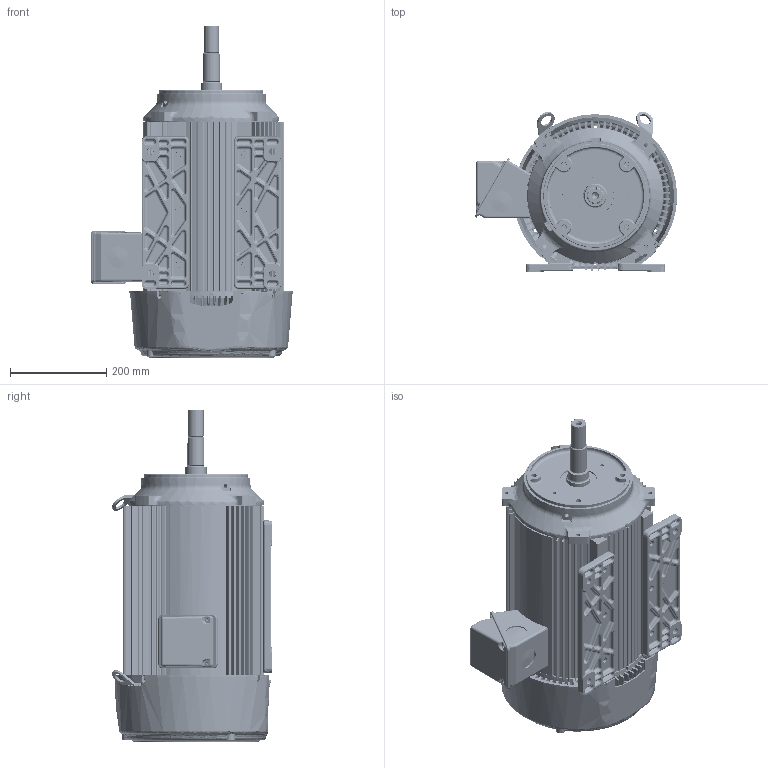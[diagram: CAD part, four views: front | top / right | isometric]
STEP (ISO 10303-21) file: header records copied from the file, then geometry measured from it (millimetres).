
FILE_DESCRIPTION((''),'2;1');
FILE_NAME('CCP_CFACE_ASM','2014-07-02T',('emd2341'),('Nidec Motor Corporation'),'PRO/ENGINEER BY PARAMETRIC TECHNOLOGY CORPORATION, 2013150','PRO/ENGINEER BY PARAMETRIC TECHNOLOGY CORPORATION, 2013150','');
FILE_SCHEMA(('CONFIG_CONTROL_DESIGN'));
Length unit declared in the file: inch
Products named in the file (16): 0375096_AF0; 0364229-OBB; 0375099-BKT_AF3; 0360239_AF2; 0375600_ASM; 0364285; 0362104; 0362103; 0374700-BKT_AF0; 0378229_AF0; 1001043_ASM; 0183520; 0373876; 0364236; 0369733; CCP_CFACE_ASM
Assembly tree (16 placements, depth 3):
  CCP_CFACE_ASM
    0375096_AF0
    0364229-OBB
    0375600_ASM
      0375099-BKT_AF3
      0360239_AF2
    0364285
    0362104
    0362103
    1001043_ASM
      0374700-BKT_AF0
      0378229_AF0
    0183520
    0373876
    0364236
    0369733  x2
Bounding box: 420.11 x 332.48 x 689.08 mm (x, y, z)
Volume: 7837130.5 mm3; surface area: 2524872 mm2
Topology: 16 solids, 16 shells, 5800 faces, 14441 edges, 8641 vertices
Faces by surface type: bspline 2050, plane 1343, cylinder 1220, cone 554, torus 424, sphere 189, extrusion 20
Entity records: 259374 total; most frequent: CARTESIAN_POINT 137005, ORIENTED_EDGE 28714, DIRECTION 20845, EDGE_CURVE 14357, VERTEX_POINT 8617, AXIS2_PLACEMENT_3D 8152, EDGE_LOOP 6010, FACE_OUTER_BOUND 5782
